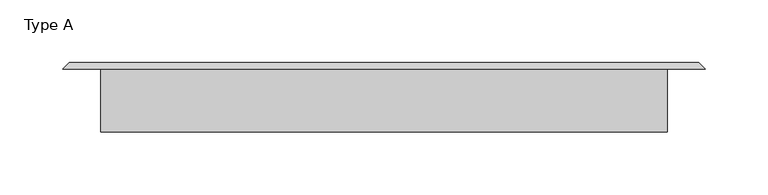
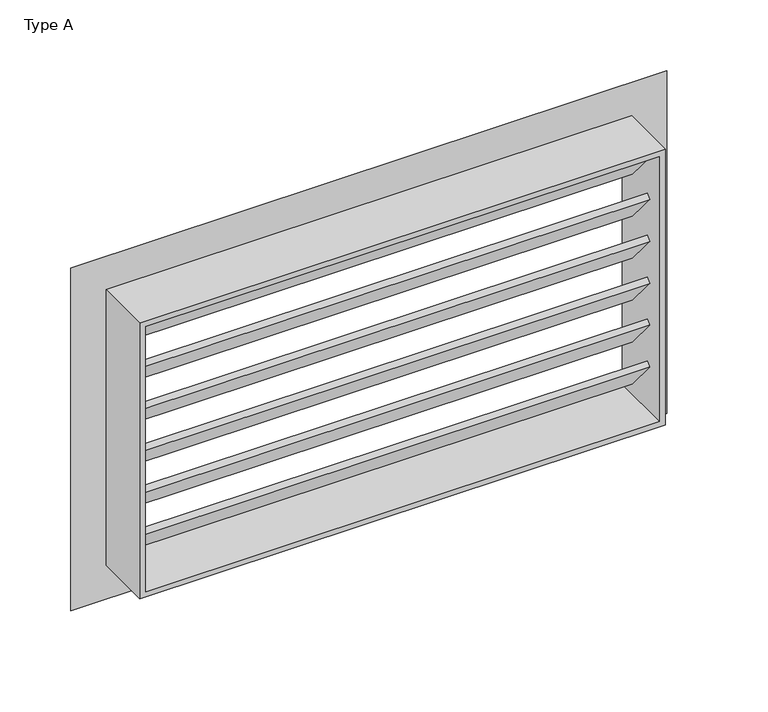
"""IFC4 building model written with IfcOpenShell, lengths in millimetres: proxy geometry, Grille d'aération - Mur : Type A."""

from ifc_helpers import new_model, si_unit, frame, origin, place, context, project, spatial, polyline, outline, extrude, faceted_brep, source, transform, mapped, element, save


def type_a_52706c0e(model_context):
    return source(origin(), model_context, "Body", "SolidModel", [
        extrude(outline(polyline([(0.0, -5.0), (0.0, 0.0), (440.0, 0.0), (440.0, -5.0), (0.0, -5.0)])), frame((345.0, 115.0, 2223.0), z_axis=(0.0, -0.6427876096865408, 0.7660444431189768), x_axis=(-1.0, 0.0, 0.0)), (0.0, 0.0, 1.0), 40.0),
        extrude(outline(polyline([(0.0, -5.0), (0.0, 0.0), (440.0, 0.0), (440.0, -5.0), (0.0, -5.0)])), frame((345.0, 115.0, 2261.0), z_axis=(0.0, -0.6427876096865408, 0.7660444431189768), x_axis=(-1.0, 0.0, 0.0)), (0.0, 0.0, 1.0), 40.0),
        extrude(outline(polyline([(0.0, -5.0), (0.0, 0.0), (440.0, 0.0), (440.0, -5.0), (0.0, -5.0)])), frame((345.0, 115.0, 2299.0), z_axis=(0.0, -0.6427876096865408, 0.7660444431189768), x_axis=(-1.0, 0.0, 0.0)), (0.0, 0.0, 1.0), 40.0),
        extrude(outline(polyline([(0.0, -5.0), (0.0, 0.0), (440.0, 0.0), (440.0, -5.0), (0.0, -5.0)])), frame((345.0, 115.0, 2337.0), z_axis=(0.0, -0.6427876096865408, 0.7660444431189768), x_axis=(-1.0, 0.0, 0.0)), (0.0, 0.0, 1.0), 40.0),
        extrude(outline(polyline([(0.0, -5.0), (0.0, 0.0), (440.0, 0.0), (440.0, -5.0), (0.0, -5.0)])), frame((345.0, 115.0, 2185.0), z_axis=(0.0, -0.6427876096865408, 0.7660444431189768), x_axis=(-1.0, 0.0, 0.0)), (0.0, 0.0, 1.0), 40.0),
        extrude(outline(polyline([(0.0, -5.0), (0.0, 0.0), (440.0, 0.0), (440.0, -5.0), (0.0, -5.0)])), frame((345.0, 115.0, 2375.0), z_axis=(0.0, -0.6427876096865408, 0.7660444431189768), x_axis=(-1.0, 0.0, 0.0)), (0.0, 0.0, 1.0), 40.0),
        faceted_brep([(-100.0, 75.0, 2420.0), (-100.0, 125.0, 2420.0), (-100.0, 125.0, 2170.0), (-100.0, 75.0, 2170.0), (-95.0, 130.0, 2415.0), (-95.0, 75.0, 2415.0), (-95.0, 75.0, 2175.0), (-95.0, 130.0, 2175.0), (-130.284753, 125.0, 2450.284753), (-125.284753, 130.0, 2445.284753), (-125.284753, 130.0, 2144.715247), (-130.284753, 125.0, 2139.715247), (350.0, 125.0, 2170.0), (350.0, 75.0, 2170.0), (345.0, 75.0, 2175.0), (345.0, 130.0, 2175.0), (375.284753, 130.0, 2144.715247), (380.284753, 125.0, 2139.715247), (350.0, 125.0, 2420.0), (350.0, 75.0, 2420.0), (345.0, 75.0, 2415.0), (345.0, 130.0, 2415.0), (375.284753, 130.0, 2445.284753), (380.284753, 125.0, 2450.284753)], [[[0, 1, 2, 3]], [[4, 5, 6, 7]], [[8, 9, 10, 11]], [[3, 2, 12, 13]], [[7, 6, 14, 15]], [[11, 10, 16, 17]], [[13, 12, 18, 19]], [[15, 14, 20, 21]], [[17, 16, 22, 23]], [[19, 18, 1, 0]], [[3, 13, 19, 0], [5, 20, 14, 6]], [[21, 20, 5, 4]], [[9, 22, 16, 10], [7, 15, 21, 4]], [[23, 22, 9, 8]], [[11, 17, 23, 8], [1, 18, 12, 2]]]),
    ])


if __name__ == "__main__":
    model = new_model("IFC4")
    model_context = context("Model", 3, world=origin())
    ifc_project = project(units=[si_unit("LENGTHUNIT", "METRE", prefix="MILLI")], contexts=[model_context])
    site = spatial("IfcSite", under=ifc_project)
    building = spatial("IfcBuilding", under=site)
    placement = place(None, origin())
    type_a_shape = type_a_52706c0e(model_context)
    element("IfcBuildingElementProxy", 1, Name="Grille d'aération - Mur : Type A", ObjectType="Grille d'aération - Mur : Type A", at=placement, inside=building, context=model_context, shape_type="MappedRepresentation", body=[
        mapped(type_a_shape, transform((0.0, 0.0, 0.0), x_axis=(1.0, 0.0, 0.0), y_axis=(0.0, 1.0, 0.0), z_axis=(0.0, 0.0, 1.0))),
    ])
    save(model, "model.ifc")
